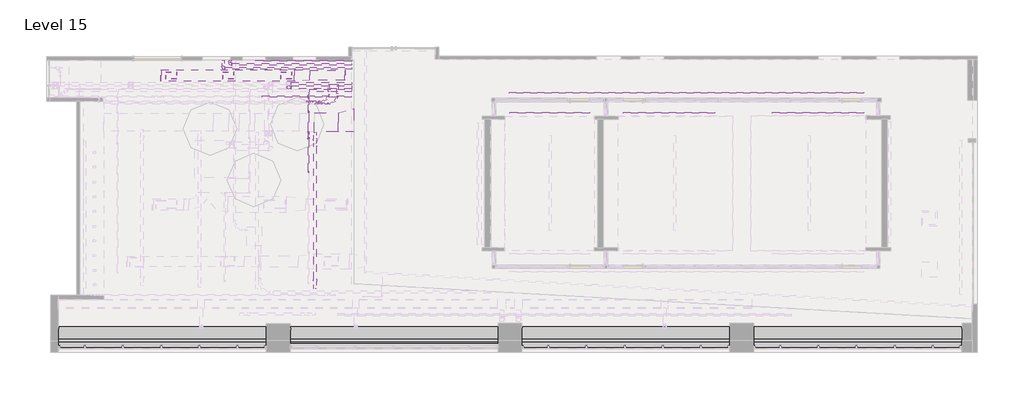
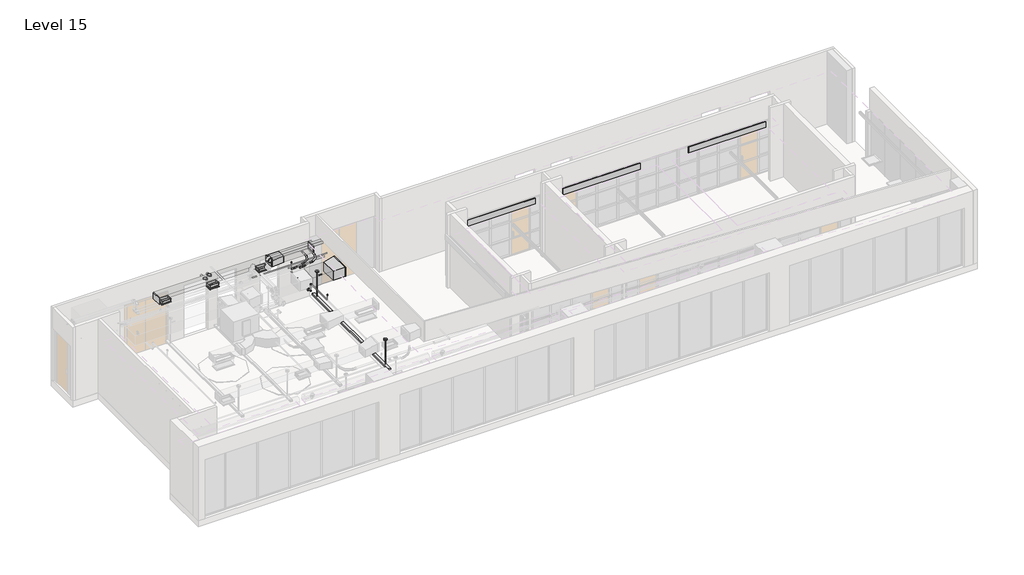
# One storey, part 11 of 11: 18 pipe segments, 9 pipe fittings, 7 air terminals, 7 duct fittings, 6 duct segments, 5 cable carrier segments, 4 cable carrier fittings, 4 proxies, 5 other elements.
"""IFC4 building model written with IfcOpenShell, lengths in millimetres."""

from ifc_helpers import new_model, si_unit, point, frame, frame_2d, origin, place, context, project, spatial, polyline, circle_curve, trimmed, segment, composite_curve, outline, extrude, transform, mapped, element, save
from components import supply_diffuser_sidewall_16x10_d44e3353, air_terminal_c1c45ee0, supply_diffuser_with_plenum_linear_slot_hosted_12_d1458841, air_terminal_2f0d0d18, radiator_radiator_24426470, radiator1_radiator_8c1c74d1, radiator2_radiator_12a4a68e, radiator3_radiator_d09cfcde, conduit_elbow_steel_standard_9fb14d21, conduit_elbow_steel_standard_2012344a, rectangular_endcap_standard_d1b4211e, rectangular_endcap_standard_0bbf1fc8, rectangular_length_eccentric_transition_dtl_standard_1da9befa, rectangular_length_eccentric_transition_dtl_standard_12de035d, rectangular_shoe_tap_standard_00681e93, upright_standard_a22043d6, light_fixture_7ab595b3, power_recessed_all2_duplex_standard_2_0b10a376, standard_237da642, threaded_elbow_standard_6d9bc947, threaded_elbow_standard_4a24fb9d

model = new_model("IFC4")

# Units and contexts
model_context = context("Model", 3, world=origin())
ifc_project = project(units=[si_unit("LENGTHUNIT", "METRE", prefix="MILLI")], contexts=[model_context])

# Site, building, storey
site = spatial("IfcSite", under=ifc_project)
building = spatial("IfcBuilding", under=site)
storey = spatial("IfcBuildingStorey", under=building, Name="Level 15", Elevation=51206.4)

# Air terminals
placement = place(None, origin())
supply_diffuser_sidewall_16x10_shape = supply_diffuser_sidewall_16x10_d44e3353(model_context)
element("IfcAirTerminal", 1, ObjectType="Supply Diffuser - Sidewall : 16x10", at=placement, inside=storey, context=model_context, shape_type="MappedRepresentation", body=[
    mapped(supply_diffuser_sidewall_16x10_shape, transform((-13337.3591431, 4021.1935985, 53822.6), x_axis=(1.0000000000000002, 0.0, 0.0), y_axis=(0.0, 0.0, 1.0000000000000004), z_axis=(0.0, -1.0000000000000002, 0.0))),
])
element("IfcAirTerminal", 2, ObjectType="Supply Diffuser - Sidewall : 16x10", at=placement, inside=storey, context=model_context, shape_type="MappedRepresentation", body=[
    mapped(supply_diffuser_sidewall_16x10_shape, transform((-11064.0591431, 4021.1935985, 53797.2), x_axis=(1.0000000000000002, 0.0, 0.0), y_axis=(0.0, 0.0, 1.0000000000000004), z_axis=(0.0, -1.0000000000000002, 0.0))),
])
element("IfcAirTerminal", 3, ObjectType="Supply Diffuser - Sidewall : 16x10", at=placement, inside=storey, context=model_context, shape_type="MappedRepresentation", body=[
    mapped(supply_diffuser_sidewall_16x10_shape, transform((-8739.9591431, 4021.1935985, 53822.6), x_axis=(1.0000000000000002, 0.0, 0.0), y_axis=(0.0, 0.0, 1.0000000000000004), z_axis=(0.0, -1.0000000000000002, 0.0))),
])
air_terminal_shape = air_terminal_c1c45ee0(model_context)
element("IfcAirTerminal", 4, ObjectType="Supply Diffuser with Plenum - Linear Slot - Hosted : 10'-6\"", at=placement, inside=storey, context=model_context, shape_type="MappedRepresentation", body=[
    mapped(air_terminal_shape, transform((1779.6369657, 2534.0685985, 53797.2), x_axis=(1.0, 0.0, 0.0), y_axis=(0.0, -1.0, 0.0), z_axis=(0.0, 0.0, -1.0))),
])
supply_diffuser_with_plenum_linear_slot_hosted_12_shape = supply_diffuser_with_plenum_linear_slot_hosted_12_d1458841(model_context)
element("IfcAirTerminal", 5, ObjectType="Supply Diffuser with Plenum - Linear Slot - Hosted : 12'", at=placement, inside=storey, context=model_context, shape_type="MappedRepresentation", body=[
    mapped(supply_diffuser_with_plenum_linear_slot_hosted_12_shape, transform((6536.939854, 2528.7435985, 53797.2), x_axis=(1.0, 0.0, 0.0), y_axis=(0.0, -1.0, 0.0), z_axis=(0.0, 0.0, -1.0))),
])
element("IfcAirTerminal", 6, ObjectType="Supply Diffuser with Plenum - Linear Slot - Hosted : 12'", at=placement, inside=storey, context=model_context, shape_type="MappedRepresentation", body=[
    mapped(supply_diffuser_with_plenum_linear_slot_hosted_12_shape, transform((12493.2375775, 2528.7435985, 53797.2), x_axis=(1.0, 0.0, 0.0), y_axis=(0.0, -1.0, 0.0), z_axis=(0.0, 0.0, -1.0))),
])
air_terminal_2_shape = air_terminal_2f0d0d18(model_context)
element("IfcAirTerminal", 7, ObjectType="Supply Diffuser with Plenum - Linear Slot - Hosted : 46'-6\"", at=placement, inside=storey, context=model_context, shape_type="MappedRepresentation", body=[
    mapped(air_terminal_2_shape, transform((7240.1690782, 3328.1935985, 53797.2), x_axis=(-1.0, 0.0, 0.0), y_axis=(0.0, 1.0, 0.0), z_axis=(0.0, 0.0, -1.0))),
])

# Proxies
radiator_radiator_shape = radiator_radiator_24426470(model_context)
element("IfcBuildingElementProxy", 8, Name="Radiator : Radiator", ObjectType="Radiator : Radiator", at=placement, inside=storey, context=model_context, shape_type="MappedRepresentation", body=[
    mapped(radiator_radiator_shape, transform((0.0, 0.0, 0.0), x_axis=(1.0, 0.0, 0.0), y_axis=(0.0, 1.0, 0.0), z_axis=(0.0, 0.0, 1.0))),
])
radiator1_radiator_shape = radiator1_radiator_8c1c74d1(model_context)
element("IfcBuildingElementProxy", 9, Name="Radiator1 : Radiator", ObjectType="Radiator1 : Radiator", at=placement, inside=storey, context=model_context, shape_type="MappedRepresentation", body=[
    mapped(radiator1_radiator_shape, transform((0.0, 0.0, 0.0), x_axis=(1.0, 0.0, 0.0), y_axis=(0.0, 1.0, 0.0), z_axis=(0.0, 0.0, 1.0))),
])
radiator2_radiator_shape = radiator2_radiator_12a4a68e(model_context)
element("IfcBuildingElementProxy", 10, Name="Radiator2 : Radiator", ObjectType="Radiator2 : Radiator", at=placement, inside=storey, context=model_context, shape_type="MappedRepresentation", body=[
    mapped(radiator2_radiator_shape, transform((0.0, 0.0, 0.0), x_axis=(1.0, 0.0, 0.0), y_axis=(0.0, 1.0, 0.0), z_axis=(0.0, 0.0, 1.0))),
])
radiator3_radiator_shape = radiator3_radiator_d09cfcde(model_context)
element("IfcBuildingElementProxy", 11, Name="Radiator3 : Radiator", ObjectType="Radiator3 : Radiator", at=placement, inside=storey, context=model_context, shape_type="MappedRepresentation", body=[
    mapped(radiator3_radiator_shape, transform((0.0, 0.0, 0.0), x_axis=(1.0, 0.0, 0.0), y_axis=(0.0, 1.0, 0.0), z_axis=(0.0, 0.0, 1.0))),
])

# Cable carrier fittings
conduit_elbow_steel_standard_shape = conduit_elbow_steel_standard_9fb14d21(model_context)
element("IfcCableCarrierFitting", 12, ObjectType="Conduit Elbow - Steel : Standard", at=placement, inside=storey, context=model_context, shape_type="MappedRepresentation", body=[
    mapped(conduit_elbow_steel_standard_shape, transform((-7045.1415084, 2977.9204938, 54356.0), x_axis=(0.9782298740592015, 0.0, 0.20752424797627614), y_axis=(0.0, 1.0, 0.0), z_axis=(-0.20752424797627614, 0.0, 0.9782298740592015))),
])
element("IfcCableCarrierFitting", 13, ObjectType="Conduit Elbow - Steel : Standard", at=placement, inside=storey, context=model_context, shape_type="MappedRepresentation", body=[
    mapped(conduit_elbow_steel_standard_shape, transform((-6702.2415084, 2901.7204938, 54356.0), x_axis=(0.9782298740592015, 0.0, 0.20752424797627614), y_axis=(0.0, 1.0, 0.0), z_axis=(-0.20752424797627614, 0.0, 0.9782298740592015))),
])
conduit_elbow_steel_standard_2_shape = conduit_elbow_steel_standard_2012344a(model_context)
element("IfcCableCarrierFitting", 14, ObjectType="Conduit Elbow - Steel : Standard", at=placement, inside=storey, context=model_context, shape_type="MappedRepresentation", body=[
    mapped(conduit_elbow_steel_standard_2_shape, transform((-7793.4588449, 2977.9204938, 54197.25), x_axis=(1.0, 0.0, 0.0), y_axis=(0.0, 0.0, 1.0), z_axis=(0.0, -1.0, 0.0))),
])
element("IfcCableCarrierFitting", 15, ObjectType="Conduit Elbow - Steel : Standard", at=placement, inside=storey, context=model_context, shape_type="MappedRepresentation", body=[
    mapped(conduit_elbow_steel_standard_2_shape, transform((-7450.5588449, 2901.7204938, 54197.25), x_axis=(1.0, 0.0, 0.0), y_axis=(0.0, 0.0, 1.0), z_axis=(0.0, -1.0, 0.0))),
])

# Cable carrier segments
element("IfcCableCarrierSegment", 16, ObjectType="Conduit", at=placement, inside=storey, context=model_context, shape_type="SweptSolid", body=[
    extrude(outline(composite_curve([segment(trimmed(circle_curve(frame_2d((4605.5481496, 53949.6)), 27.9019), [point((4577.6462496, 53949.6))], [point((4605.5481496, 53977.5019))], False, "CARTESIAN"), True, "CONTINUOUS"), segment(trimmed(circle_curve(frame_2d((4605.5481496, 53949.6)), 27.9019), [point((4605.5481496, 53977.5019))], [point((4633.4500496, 53949.6))], False, "CARTESIAN"), True, "CONTINUOUS"), segment(trimmed(circle_curve(frame_2d((4605.5481496, 53949.6)), 27.9019), [point((4633.4500496, 53949.6))], [point((4605.5481496, 53921.6981))], False, "CARTESIAN"), True, "CONTINUOUS"), segment(trimmed(circle_curve(frame_2d((4605.5481496, 53949.6)), 27.9019), [point((4605.5481496, 53921.6981))], [point((4577.6462496, 53949.6))], False, "CARTESIAN"), True, "CONTINUOUS")], self_intersect=False)), frame((-9983.3415084, 0.0, 0.0), z_axis=(1.0, 0.0, 0.0), x_axis=(0.0, 1.0, 0.0)), (0.0, 0.0, 1.0), 3860.4662583),
])
element("IfcCableCarrierSegment", 17, ObjectType="Conduit", at=placement, inside=storey, context=model_context, shape_type="SweptSolid", body=[
    extrude(outline(composite_curve([segment(trimmed(circle_curve(frame_2d((0.0, 27.9019)), 27.9019), [point((0.0, 0.0))], [point((-27.9019, 27.9019))], False, "CARTESIAN"), True, "CONTINUOUS"), segment(trimmed(circle_curve(frame_2d((0.0, 27.9019)), 27.9019), [point((-27.9019, 27.9019))], [point((0.0, 55.8038))], False, "CARTESIAN"), True, "CONTINUOUS"), segment(trimmed(circle_curve(frame_2d((0.0, 27.9019)), 27.9019), [point((0.0, 55.8038))], [point((27.9019, 27.9019))], False, "CARTESIAN"), True, "CONTINUOUS"), segment(trimmed(circle_curve(frame_2d((0.0, 27.9019)), 27.9019), [point((27.9019, 27.9019))], [point((0.0, 0.0))], False, "CARTESIAN"), True, "CONTINUOUS")], self_intersect=False)), frame((-7664.0953184, 2950.0185938, 54224.6935174), z_axis=(0.9782298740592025, 0.0, 0.20752424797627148), x_axis=(0.20752424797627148, 0.0, -0.9782298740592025)), (0.0, 0.0, 1.0), 239.0283867),
])
element("IfcCableCarrierSegment", 18, ObjectType="Conduit", at=placement, inside=storey, context=model_context, shape_type="SweptSolid", body=[
    extrude(outline(composite_curve([segment(trimmed(circle_curve(frame_2d((0.0, 27.9019)), 27.9019), [point((0.0, 55.8038))], [point((27.9019, 27.9019))], False, "CARTESIAN"), True, "CONTINUOUS"), segment(trimmed(circle_curve(frame_2d((0.0, 27.9019)), 27.9019), [point((27.9019, 27.9019))], [point((0.0, 0.0))], False, "CARTESIAN"), True, "CONTINUOUS"), segment(trimmed(circle_curve(frame_2d((0.0, 27.9019)), 27.9019), [point((0.0, 0.0))], [point((-27.9019, 27.9019))], False, "CARTESIAN"), True, "CONTINUOUS"), segment(trimmed(circle_curve(frame_2d((0.0, 27.9019)), 27.9019), [point((-27.9019, 27.9019))], [point((0.0, 55.8038))], False, "CARTESIAN"), True, "CONTINUOUS")], self_intersect=False)), frame((-7073.0434084, 3371.6204938, 54356.0), z_axis=(-1.0575670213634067e-12, 1.0, 0.0), x_axis=(0.0, 0.0, 1.0)), (0.0, 0.0, 1.0), 304.8),
])
element("IfcCableCarrierSegment", 19, ObjectType="Conduit", at=placement, inside=storey, context=model_context, shape_type="SweptSolid", body=[
    extrude(outline(composite_curve([segment(trimmed(circle_curve(frame_2d((0.0, 27.9019)), 27.9019), [point((0.0, 0.0))], [point((-27.9019, 27.9019))], False, "CARTESIAN"), True, "CONTINUOUS"), segment(trimmed(circle_curve(frame_2d((0.0, 27.9019)), 27.9019), [point((-27.9019, 27.9019))], [point((0.0, 55.8038))], False, "CARTESIAN"), True, "CONTINUOUS"), segment(trimmed(circle_curve(frame_2d((0.0, 27.9019)), 27.9019), [point((0.0, 55.8038))], [point((27.9019, 27.9019))], False, "CARTESIAN"), True, "CONTINUOUS"), segment(trimmed(circle_curve(frame_2d((0.0, 27.9019)), 27.9019), [point((27.9019, 27.9019))], [point((0.0, 0.0))], False, "CARTESIAN"), True, "CONTINUOUS")], self_intersect=False)), frame((-7321.1953184, 2873.8185938, 54224.6935174), z_axis=(0.9782298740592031, 0.0, 0.2075242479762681), x_axis=(0.2075242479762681, 0.0, -0.9782298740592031)), (0.0, 0.0, 1.0), 239.0283867),
])
element("IfcCableCarrierSegment", 20, ObjectType="Conduit", at=placement, inside=storey, context=model_context, shape_type="SweptSolid", body=[
    extrude(outline(composite_curve([segment(trimmed(circle_curve(frame_2d((0.0, 27.9019)), 27.9019), [point((0.0, 55.8038))], [point((27.9019, 27.9019))], False, "CARTESIAN"), True, "CONTINUOUS"), segment(trimmed(circle_curve(frame_2d((0.0, 27.9019)), 27.9019), [point((27.9019, 27.9019))], [point((0.0, 0.0))], False, "CARTESIAN"), True, "CONTINUOUS"), segment(trimmed(circle_curve(frame_2d((0.0, 27.9019)), 27.9019), [point((0.0, 0.0))], [point((-27.9019, 27.9019))], False, "CARTESIAN"), True, "CONTINUOUS"), segment(trimmed(circle_curve(frame_2d((0.0, 27.9019)), 27.9019), [point((-27.9019, 27.9019))], [point((0.0, 55.8038))], False, "CARTESIAN"), True, "CONTINUOUS")], self_intersect=False)), frame((-6730.1434084, 3295.4204938, 54356.0), z_axis=(-1.0187572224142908e-12, 1.0, 0.0), x_axis=(0.0, 0.0, 1.0)), (0.0, 0.0, 1.0), 381.0),
])

# Duct fittings
rectangular_endcap_standard_shape = rectangular_endcap_standard_d1b4211e(model_context)
element("IfcDuctFitting", 21, ObjectType="Rectangular Endcap : Standard", at=placement, inside=storey, context=model_context, shape_type="MappedRepresentation", body=[
    mapped(rectangular_endcap_standard_shape, transform((-13724.8962202, 4021.1935985, 54127.4), x_axis=(-1.0, 0.0, 0.0), y_axis=(0.0, -1.0, 0.0), z_axis=(0.0, 0.0, 1.0))),
])
rectangular_endcap_standard_2_shape = rectangular_endcap_standard_0bbf1fc8(model_context)
element("IfcDuctFitting", 22, ObjectType="Rectangular Endcap : Standard", at=placement, inside=storey, context=model_context, shape_type="MappedRepresentation", body=[
    mapped(rectangular_endcap_standard_2_shape, transform((-6409.6962202, 4021.1935985, 54127.4), x_axis=(1.0, 0.0, 0.0), y_axis=(0.0, 1.0, 0.0), z_axis=(0.0, 0.0, 1.0))),
])
rectangular_length_eccentric_transition_dtl_standard_shape = rectangular_length_eccentric_transition_dtl_standard_1da9befa(model_context)
element("IfcDuctFitting", 23, ObjectType="Rectangular Length Eccentric Transition - DTL : Standard", at=placement, inside=storey, context=model_context, shape_type="MappedRepresentation", body=[
    mapped(rectangular_length_eccentric_transition_dtl_standard_shape, transform((-8416.5502202, 4021.1935985, 54127.4), x_axis=(1.0, 0.0, 0.0), y_axis=(0.0, 1.0, 0.0), z_axis=(0.0, 0.0, 1.0))),
])
rectangular_length_eccentric_transition_dtl_standard_2_shape = rectangular_length_eccentric_transition_dtl_standard_12de035d(model_context)
element("IfcDuctFitting", 24, ObjectType="Rectangular Length Eccentric Transition - DTL : Standard", at=placement, inside=storey, context=model_context, shape_type="MappedRepresentation", body=[
    mapped(rectangular_length_eccentric_transition_dtl_standard_2_shape, transform((-6046.67525, 2222.974678, 54140.1), x_axis=(-1.0, 0.0, 0.0), y_axis=(0.0, -1.0, 0.0), z_axis=(0.0, 0.0, 1.0))),
])
rectangular_shoe_tap_standard_shape = rectangular_shoe_tap_standard_00681e93(model_context)
element("IfcDuctFitting", 25, ObjectType="Rectangular Shoe Tap : Standard", at=placement, inside=storey, context=model_context, shape_type="MappedRepresentation", body=[
    mapped(rectangular_shoe_tap_standard_shape, transform((-13337.3591431, 4021.1935985, 53975.0), x_axis=(0.0, 0.0, -1.0), y_axis=(-1.0, 0.0, 0.0), z_axis=(0.0, 1.0, 0.0))),
])
element("IfcDuctFitting", 26, ObjectType="Rectangular Shoe Tap : Standard", at=placement, inside=storey, context=model_context, shape_type="MappedRepresentation", body=[
    mapped(rectangular_shoe_tap_standard_shape, transform((-11064.0591431, 4021.1935985, 53975.0), x_axis=(0.0, 0.0, -1.0), y_axis=(-1.0, 0.0, 0.0), z_axis=(0.0, 1.0, 0.0))),
])
element("IfcDuctFitting", 27, ObjectType="Rectangular Shoe Tap : Standard", at=placement, inside=storey, context=model_context, shape_type="MappedRepresentation", body=[
    mapped(rectangular_shoe_tap_standard_shape, transform((-8739.9591431, 4021.1935985, 53975.0), x_axis=(0.0, 0.0, -1.0), y_axis=(-1.0, 0.0, 0.0), z_axis=(0.0, 1.0, 0.0))),
])

# Duct segments
element("IfcDuctSegment", 28, ObjectType="Square Throat Elbows / S&D", at=placement, inside=storey, context=model_context, shape_type="SweptSolid", body=[
    extrude(outline(polyline([(-7806.9502202, 3817.9935985), (-7806.9502202, 4224.3935985), (-6409.6962202, 4224.3935985), (-6409.6962202, 3817.9935985), (-7806.9502202, 3817.9935985)])), frame((0.0, 0.0, 53975.0), z_axis=(0.0, 0.0, 1.0), x_axis=(1.0, 0.0, 0.0)), (0.0, 0.0, 1.0), 304.8),
])
element("IfcDuctSegment", 29, ObjectType="Square Throat Elbows / S&D", at=placement, inside=storey, context=model_context, shape_type="SweptSolid", body=[
    extrude(outline(polyline([(-13724.8962202, 3792.5935985), (-13724.8962202, 4249.7935985), (-8416.5502202, 4249.7935985), (-8416.5502202, 3792.5935985), (-13724.8962202, 3792.5935985)])), frame((0.0, 0.0, 53975.0), z_axis=(0.0, 0.0, 1.0), x_axis=(1.0, 0.0, 0.0)), (0.0, 0.0, 1.0), 304.8),
])
element("IfcDuctSegment", 30, ObjectType="Square Throat Elbows / S&D", at=placement, inside=storey, context=model_context, shape_type="SweptSolid", body=[
    extrude(outline(polyline([(-13540.5591431, 3894.1935985), (-13540.5591431, 4148.1935985), (-13134.1591431, 4148.1935985), (-13134.1591431, 3894.1935985), (-13540.5591431, 3894.1935985)])), frame((0.0, 0.0, 53850.38125), z_axis=(0.0, 0.0, 1.0), x_axis=(1.0, 0.0, 0.0)), (0.0, 0.0, 1.0), 23.01875),
])
element("IfcDuctSegment", 31, ObjectType="Square Throat Elbows / S&D", at=placement, inside=storey, context=model_context, shape_type="SweptSolid", body=[
    extrude(outline(polyline([(-11267.2591431, 3894.1935985), (-11267.2591431, 4148.1935985), (-10860.8591431, 4148.1935985), (-10860.8591431, 3894.1935985), (-11267.2591431, 3894.1935985)])), frame((0.0, 0.0, 53824.98125), z_axis=(0.0, 0.0, 1.0), x_axis=(1.0, 0.0, 0.0)), (0.0, 0.0, 1.0), 48.41875),
])
element("IfcDuctSegment", 32, ObjectType="Square Throat Elbows / S&D", at=placement, inside=storey, context=model_context, shape_type="SweptSolid", body=[
    extrude(outline(polyline([(-8943.1591431, 3894.1935985), (-8943.1591431, 4148.1935985), (-8536.7591431, 4148.1935985), (-8536.7591431, 3894.1935985), (-8943.1591431, 3894.1935985)])), frame((0.0, 0.0, 53850.38125), z_axis=(0.0, 0.0, 1.0), x_axis=(1.0, 0.0, 0.0)), (0.0, 0.0, 1.0), 23.01875),
])
element("IfcDuctSegment", 33, ObjectType="Square Throat Elbows / S&D", at=placement, inside=storey, context=model_context, shape_type="SweptSolid", body=[
    extrude(outline(polyline([(-7615.0642299, 1765.774678), (-7615.0642299, 2527.774678), (-6656.27525, 2527.774678), (-6656.27525, 1765.774678), (-7615.0642299, 1765.774678)])), frame((0.0, 0.0, 53911.5), z_axis=(0.0, 0.0, 1.0), x_axis=(1.0, 0.0, 0.0)), (0.0, 0.0, 1.0), 457.2),
])

# Fire suppression terminals
upright_standard_shape = upright_standard_a22043d6(model_context)
element("IfcFireSuppressionTerminal", 34, ObjectType="Upright : Standard", at=placement, inside=storey, context=model_context, shape_type="MappedRepresentation", body=[
    mapped(upright_standard_shape, transform((-7851.8681062, 158.0143012, 54533.8), x_axis=(1.0, 0.0, 0.0), y_axis=(0.0, 1.0, 0.0), z_axis=(0.0, 0.0, 1.0))),
])
element("IfcFireSuppressionTerminal", 35, ObjectType="Upright : Standard", at=placement, inside=storey, context=model_context, shape_type="MappedRepresentation", body=[
    mapped(upright_standard_shape, transform((-7851.8681062, 3123.4643012, 54368.7), x_axis=(1.0, 0.0, 0.0), y_axis=(0.0, 1.0, 0.0), z_axis=(0.0, 0.0, 1.0))),
])

# Light fixture
light_fixture_shape = light_fixture_7ab595b3(model_context)
element("IfcLightFixture", 36, ObjectType="Linear : 20' 8\"", at=placement, inside=storey, context=model_context, shape_type="MappedRepresentation", body=[
    mapped(light_fixture_shape, transform((-7588.4415084, 1194.3935985, 49703.9365365), x_axis=(0.0, 1.0, 0.0), y_axis=(-1.0, 0.0, 0.0), z_axis=(0.0, 0.0, 1.0))),
])

# Outlets
power_recessed_all2_duplex_standard_2_shape = power_recessed_all2_duplex_standard_2_0b10a376(model_context)
element("IfcOutlet", 37, ObjectType="Power-Recessed-All2 : Duplex-Standard 2", at=placement, inside=storey, context=model_context, shape_type="MappedRepresentation", body=[
    mapped(power_recessed_all2_duplex_standard_2_shape, transform((13931.8936925, 4668.7435985, 51638.2), x_axis=(1.0, 0.0, 0.0), y_axis=(0.0, 0.0, 1.0), z_axis=(0.0, -1.0, 0.0))),
])
element("IfcOutlet", 38, ObjectType="Power-Recessed-All2 : Duplex-Standard 2", at=placement, inside=storey, context=model_context, shape_type="MappedRepresentation", body=[
    mapped(power_recessed_all2_duplex_standard_2_shape, transform((5017.7584916, 4668.7435985, 51562.0), x_axis=(1.0, 0.0, 0.0), y_axis=(0.0, 0.0, 1.0), z_axis=(0.0, -1.0, 0.0))),
])

# Pipe fittings
standard_shape = standard_237da642(model_context)
element("IfcPipeFitting", 39, ObjectType="Victaulic Grooved Elbow : Standard", at=placement, inside=storey, context=model_context, shape_type="MappedRepresentation", body=[
    mapped(standard_shape, transform((-7851.8681062, 1516.1797412, 54317.9), x_axis=(0.0, 1.0, 0.0), y_axis=(0.0, 0.0, -1.0), z_axis=(-1.0, 0.0, 0.0))),
])
element("IfcPipeFitting", 40, ObjectType="Victaulic Grooved Elbow : Standard", at=placement, inside=storey, context=model_context, shape_type="MappedRepresentation", body=[
    mapped(standard_shape, transform((-7851.8681062, 2563.2935985, 53848.0), x_axis=(0.0, 1.0, 0.0), y_axis=(0.0, 0.0, 1.0), z_axis=(1.0, 0.0, 0.0))),
])
element("IfcPipeFitting", 41, ObjectType="Victaulic Grooved Elbow : Standard", at=placement, inside=storey, context=model_context, shape_type="MappedRepresentation", body=[
    mapped(standard_shape, transform((-7851.8681062, 2563.2935985, 53949.6), x_axis=(0.0, 0.0, 1.0), y_axis=(0.0, 1.0, 0.0), z_axis=(-1.0, 0.0, 0.0))),
])
element("IfcPipeFitting", 42, ObjectType="Victaulic Grooved Elbow : Standard", at=placement, inside=storey, context=model_context, shape_type="MappedRepresentation", body=[
    mapped(standard_shape, transform((-7851.8681062, 1516.1797412, 53949.6), x_axis=(0.0, 0.0, -1.0), y_axis=(0.0, 1.0, 0.0), z_axis=(1.0, 0.0, 0.0))),
])
element("IfcPipeFitting", 43, ObjectType="Victaulic Grooved Elbow : Standard", at=placement, inside=storey, context=model_context, shape_type="MappedRepresentation", body=[
    mapped(standard_shape, transform((-7851.8681062, 1728.9047412, 53848.0), x_axis=(0.0, -1.0, 0.0), y_axis=(0.0, 0.0, 1.0), z_axis=(-1.0, 0.0, 0.0))),
])
element("IfcPipeFitting", 44, ObjectType="Victaulic Grooved Elbow : Standard", at=placement, inside=storey, context=model_context, shape_type="MappedRepresentation", body=[
    mapped(standard_shape, transform((-7851.8681062, 1728.9047412, 53949.6), x_axis=(0.0, 1.0, 0.0), y_axis=(0.0, 0.0, -1.0), z_axis=(-1.0, 0.0, 0.0))),
])
threaded_elbow_standard_shape = threaded_elbow_standard_6d9bc947(model_context)
element("IfcPipeFitting", 45, ObjectType="Threaded Elbow : Standard", at=placement, inside=storey, context=model_context, shape_type="MappedRepresentation", body=[
    mapped(threaded_elbow_standard_shape, transform((-8648.6307372, 3544.746744, 54559.2), x_axis=(0.0, 0.0, 1.0), y_axis=(1.0, 0.0, 0.0), z_axis=(0.0, 1.0, 0.0))),
])
threaded_elbow_standard_2_shape = threaded_elbow_standard_4a24fb9d(model_context)
element("IfcPipeFitting", 46, ObjectType="Threaded Elbow : Standard", at=placement, inside=storey, context=model_context, shape_type="MappedRepresentation", body=[
    mapped(threaded_elbow_standard_2_shape, transform((-10987.2415084, 4462.7935985, 54051.2), x_axis=(0.0, -1.0, 0.0), y_axis=(1.0, 0.0, 0.0), z_axis=(0.0, 0.0, 1.0))),
])
element("IfcPipeFitting", 47, ObjectType="Threaded Elbow : Standard", at=placement, inside=storey, context=model_context, shape_type="MappedRepresentation", body=[
    mapped(threaded_elbow_standard_2_shape, transform((-11260.9590062, 4310.3935985, 54051.2), x_axis=(0.0, -1.0, 0.0), y_axis=(1.0, 0.0, 0.0), z_axis=(0.0, 0.0, 1.0))),
])

# Pipe segments
element("IfcPipeSegment", 48, ObjectType="Fire Prot Sched 10 Main", at=placement, inside=storey, context=model_context, shape_type="SweptSolid", body=[
    extrude(outline(composite_curve([segment(trimmed(circle_curve(frame_2d((3418.1189131, 53949.6)), 44.45), [point((3373.6689131, 53949.6))], [point((3418.1189131, 53994.05))], False, "CARTESIAN"), True, "CONTINUOUS"), segment(trimmed(circle_curve(frame_2d((3418.1189131, 53949.6)), 44.45), [point((3418.1189131, 53994.05))], [point((3462.5689131, 53949.6))], False, "CARTESIAN"), True, "CONTINUOUS"), segment(trimmed(circle_curve(frame_2d((3418.1189131, 53949.6)), 44.45), [point((3462.5689131, 53949.6))], [point((3418.1189131, 53905.15))], False, "CARTESIAN"), True, "CONTINUOUS"), segment(trimmed(circle_curve(frame_2d((3418.1189131, 53949.6)), 44.45), [point((3418.1189131, 53905.15))], [point((3373.6689131, 53949.6))], False, "CARTESIAN"), True, "CONTINUOUS")], self_intersect=False)), frame((-7801.0681062, 0.0, 0.0), z_axis=(1.0, 0.0, 0.0), x_axis=(0.0, 1.0, 0.0)), (0.0, 0.0, 1.0), 1678.1928562),
])
element("IfcPipeSegment", 49, ObjectType="Fire Prot Sched 10 Main", at=placement, inside=storey, context=model_context, shape_type="SweptSolid", body=[
    extrude(outline(composite_curve([segment(trimmed(circle_curve(frame_2d((-7851.8681062, 1516.1797412)), 16.7005), [point((-7835.1676062, 1516.1797412))], [point((-7851.8681062, 1499.4792412))], False, "CARTESIAN"), True, "CONTINUOUS"), segment(trimmed(circle_curve(frame_2d((-7851.8681062, 1516.1797412)), 16.7005), [point((-7851.8681062, 1499.4792412))], [point((-7868.5686062, 1516.1797412))], False, "CARTESIAN"), True, "CONTINUOUS"), segment(trimmed(circle_curve(frame_2d((-7851.8681062, 1516.1797412)), 16.7005), [point((-7868.5686062, 1516.1797412))], [point((-7851.8681062, 1532.8802412))], False, "CARTESIAN"), True, "CONTINUOUS"), segment(trimmed(circle_curve(frame_2d((-7851.8681062, 1516.1797412)), 16.7005), [point((-7851.8681062, 1532.8802412))], [point((-7835.1676062, 1516.1797412))], False, "CARTESIAN"), True, "CONTINUOUS")], self_intersect=False)), frame((0.0, 0.0, 53986.5450937), z_axis=(0.0, 0.0, 1.0), x_axis=(1.0, 0.0, 0.0)), (0.0, 0.0, 1.0), 294.4098125),
])
element("IfcPipeSegment", 50, ObjectType="Fire Prot Sched 10 Main", at=placement, inside=storey, context=model_context, shape_type="SweptSolid", body=[
    extrude(outline(composite_curve([segment(trimmed(circle_curve(frame_2d((53848.0, -7851.8681062)), 16.7005), [point((53848.0, -7835.1676062))], [point((53864.7005, -7851.8681062))], False, "CARTESIAN"), True, "CONTINUOUS"), segment(trimmed(circle_curve(frame_2d((53848.0, -7851.8681062)), 16.7005), [point((53864.7005, -7851.8681062))], [point((53848.0, -7868.5686062))], False, "CARTESIAN"), True, "CONTINUOUS"), segment(trimmed(circle_curve(frame_2d((53848.0, -7851.8681062)), 16.7005), [point((53848.0, -7868.5686062))], [point((53831.2995, -7851.8681062))], False, "CARTESIAN"), True, "CONTINUOUS"), segment(trimmed(circle_curve(frame_2d((53848.0, -7851.8681062)), 16.7005), [point((53831.2995, -7851.8681062))], [point((53848.0, -7835.1676062))], False, "CARTESIAN"), True, "CONTINUOUS")], self_intersect=False)), frame((0.0, 1765.8498349, 0.0), z_axis=(0.0, 1.0, 0.0), x_axis=(0.0, 0.0, 1.0)), (0.0, 0.0, 1.0), 760.4986698),
])
element("IfcPipeSegment", 51, ObjectType="Fire Prot Sched 10 Main", at=placement, inside=storey, context=model_context, shape_type="SweptSolid", body=[
    extrude(outline(composite_curve([segment(trimmed(circle_curve(frame_2d((-7851.8681062, 2563.2935985)), 16.7005), [point((-7868.5686062, 2563.2935985))], [point((-7851.8681062, 2579.9940985))], False, "CARTESIAN"), True, "CONTINUOUS"), segment(trimmed(circle_curve(frame_2d((-7851.8681062, 2563.2935985)), 16.7005), [point((-7851.8681062, 2579.9940985))], [point((-7835.1676062, 2563.2935985))], False, "CARTESIAN"), True, "CONTINUOUS"), segment(trimmed(circle_curve(frame_2d((-7851.8681062, 2563.2935985)), 16.7005), [point((-7835.1676062, 2563.2935985))], [point((-7851.8681062, 2546.5930985))], False, "CARTESIAN"), True, "CONTINUOUS"), segment(trimmed(circle_curve(frame_2d((-7851.8681062, 2563.2935985)), 16.7005), [point((-7851.8681062, 2546.5930985))], [point((-7868.5686062, 2563.2935985))], False, "CARTESIAN"), True, "CONTINUOUS")], self_intersect=False)), frame((0.0, 0.0, 53884.9450937), z_axis=(0.0, 0.0, 1.0), x_axis=(1.0, 0.0, 0.0)), (0.0, 0.0, 1.0), 27.7098125),
])
element("IfcPipeSegment", 52, ObjectType="Fire Prot Sched 10 Main", at=placement, inside=storey, context=model_context, shape_type="SweptSolid", body=[
    extrude(outline(composite_curve([segment(trimmed(circle_curve(frame_2d((53949.6, -7851.8681062)), 16.7005), [point((53949.6, -7868.5686062))], [point((53932.8995, -7851.8681062))], False, "CARTESIAN"), True, "CONTINUOUS"), segment(trimmed(circle_curve(frame_2d((53949.6, -7851.8681062)), 16.7005), [point((53932.8995, -7851.8681062))], [point((53949.6, -7835.1676062))], False, "CARTESIAN"), True, "CONTINUOUS"), segment(trimmed(circle_curve(frame_2d((53949.6, -7851.8681062)), 16.7005), [point((53949.6, -7835.1676062))], [point((53966.3005, -7851.8681062))], False, "CARTESIAN"), True, "CONTINUOUS"), segment(trimmed(circle_curve(frame_2d((53949.6, -7851.8681062)), 16.7005), [point((53966.3005, -7851.8681062))], [point((53949.6, -7868.5686062))], False, "CARTESIAN"), True, "CONTINUOUS")], self_intersect=False)), frame((0.0, 2600.2386922, 0.0), z_axis=(0.0, 1.0, 0.0), x_axis=(0.0, 0.0, 1.0)), (0.0, 0.0, 1.0), 491.225609),
])
element("IfcPipeSegment", 53, ObjectType="Fire Prot Sched 10 Main", at=placement, inside=storey, context=model_context, shape_type="SweptSolid", body=[
    extrude(outline(composite_curve([segment(trimmed(circle_curve(frame_2d((-7851.8681062, 158.0143012)), 10.668), [point((-7841.2001062, 158.0143012))], [point((-7851.8681062, 147.3463012))], False, "CARTESIAN"), True, "CONTINUOUS"), segment(trimmed(circle_curve(frame_2d((-7851.8681062, 158.0143012)), 10.668), [point((-7851.8681062, 147.3463012))], [point((-7862.5361062, 158.0143012))], False, "CARTESIAN"), True, "CONTINUOUS"), segment(trimmed(circle_curve(frame_2d((-7851.8681062, 158.0143012)), 10.668), [point((-7862.5361062, 158.0143012))], [point((-7851.8681062, 168.6823012))], False, "CARTESIAN"), True, "CONTINUOUS"), segment(trimmed(circle_curve(frame_2d((-7851.8681062, 158.0143012)), 10.668), [point((-7851.8681062, 168.6823012))], [point((-7841.2001062, 158.0143012))], False, "CARTESIAN"), True, "CONTINUOUS")], self_intersect=False)), frame((0.0, 0.0, 54353.4), z_axis=(0.0, 0.0, 1.0), x_axis=(1.0, 0.0, 0.0)), (0.0, 0.0, 1.0), 180.4),
])
element("IfcPipeSegment", 54, ObjectType="Fire Prot Sched 10 Main", at=placement, inside=storey, context=model_context, shape_type="SweptSolid", body=[
    extrude(outline(composite_curve([segment(trimmed(circle_curve(frame_2d((54317.9, -7851.8681062)), 16.7005), [point((54317.9, -7868.5686062))], [point((54301.1995, -7851.8681062))], False, "CARTESIAN"), True, "CONTINUOUS"), segment(trimmed(circle_curve(frame_2d((54317.9, -7851.8681062)), 16.7005), [point((54301.1995, -7851.8681062))], [point((54317.9, -7835.1676062))], False, "CARTESIAN"), True, "CONTINUOUS"), segment(trimmed(circle_curve(frame_2d((54317.9, -7851.8681062)), 16.7005), [point((54317.9, -7835.1676062))], [point((54334.6005, -7851.8681062))], False, "CARTESIAN"), True, "CONTINUOUS"), segment(trimmed(circle_curve(frame_2d((54317.9, -7851.8681062)), 16.7005), [point((54334.6005, -7851.8681062))], [point((54317.9, -7868.5686062))], False, "CARTESIAN"), True, "CONTINUOUS")], self_intersect=False)), frame((0.0, 190.0143012, 0.0), z_axis=(0.0, 1.0, 0.0), x_axis=(0.0, 0.0, 1.0)), (0.0, 0.0, 1.0), 1289.2203462),
])
element("IfcPipeSegment", 55, ObjectType="Fire Prot Sched 10 Main", at=placement, inside=storey, context=model_context, shape_type="SweptSolid", body=[
    extrude(outline(composite_curve([segment(trimmed(circle_curve(frame_2d((53949.6, -7851.8681062)), 16.7005), [point((53949.6, -7835.1676062))], [point((53966.3005, -7851.8681062))], False, "CARTESIAN"), True, "CONTINUOUS"), segment(trimmed(circle_curve(frame_2d((53949.6, -7851.8681062)), 16.7005), [point((53966.3005, -7851.8681062))], [point((53949.6, -7868.5686062))], False, "CARTESIAN"), True, "CONTINUOUS"), segment(trimmed(circle_curve(frame_2d((53949.6, -7851.8681062)), 16.7005), [point((53949.6, -7868.5686062))], [point((53932.8995, -7851.8681062))], False, "CARTESIAN"), True, "CONTINUOUS"), segment(trimmed(circle_curve(frame_2d((53949.6, -7851.8681062)), 16.7005), [point((53932.8995, -7851.8681062))], [point((53949.6, -7835.1676062))], False, "CARTESIAN"), True, "CONTINUOUS")], self_intersect=False)), frame((0.0, 1553.1248349, 0.0), z_axis=(0.0, 1.0, 0.0), x_axis=(0.0, 0.0, 1.0)), (0.0, 0.0, 1.0), 138.8348125),
])
element("IfcPipeSegment", 56, ObjectType="Fire Prot Sched 10 Main", at=placement, inside=storey, context=model_context, shape_type="SweptSolid", body=[
    extrude(outline(composite_curve([segment(trimmed(circle_curve(frame_2d((-7851.8681062, 1728.9047412)), 16.7005), [point((-7868.5686062, 1728.9047412))], [point((-7851.8681062, 1745.6052412))], False, "CARTESIAN"), True, "CONTINUOUS"), segment(trimmed(circle_curve(frame_2d((-7851.8681062, 1728.9047412)), 16.7005), [point((-7851.8681062, 1745.6052412))], [point((-7835.1676062, 1728.9047412))], False, "CARTESIAN"), True, "CONTINUOUS"), segment(trimmed(circle_curve(frame_2d((-7851.8681062, 1728.9047412)), 16.7005), [point((-7835.1676062, 1728.9047412))], [point((-7851.8681062, 1712.2042412))], False, "CARTESIAN"), True, "CONTINUOUS"), segment(trimmed(circle_curve(frame_2d((-7851.8681062, 1728.9047412)), 16.7005), [point((-7851.8681062, 1712.2042412))], [point((-7868.5686062, 1728.9047412))], False, "CARTESIAN"), True, "CONTINUOUS")], self_intersect=False)), frame((0.0, 0.0, 53884.9450937), z_axis=(0.0, 0.0, 1.0), x_axis=(1.0, 0.0, 0.0)), (0.0, 0.0, 1.0), 27.7098125),
])
element("IfcPipeSegment", 57, ObjectType="Fire Prot Sched 10 Main", at=placement, inside=storey, context=model_context, shape_type="SweptSolid", body=[
    extrude(outline(composite_curve([segment(trimmed(circle_curve(frame_2d((-7851.8681062, 3123.4643012)), 10.668), [point((-7841.2001062, 3123.4643012))], [point((-7851.8681062, 3112.7963012))], False, "CARTESIAN"), True, "CONTINUOUS"), segment(trimmed(circle_curve(frame_2d((-7851.8681062, 3123.4643012)), 10.668), [point((-7851.8681062, 3112.7963012))], [point((-7862.5361062, 3123.4643012))], False, "CARTESIAN"), True, "CONTINUOUS"), segment(trimmed(circle_curve(frame_2d((-7851.8681062, 3123.4643012)), 10.668), [point((-7862.5361062, 3123.4643012))], [point((-7851.8681062, 3134.1323012))], False, "CARTESIAN"), True, "CONTINUOUS"), segment(trimmed(circle_curve(frame_2d((-7851.8681062, 3123.4643012)), 10.668), [point((-7851.8681062, 3134.1323012))], [point((-7841.2001062, 3123.4643012))], False, "CARTESIAN"), True, "CONTINUOUS")], self_intersect=False)), frame((0.0, 0.0, 53985.1), z_axis=(0.0, 0.0, 1.0), x_axis=(1.0, 0.0, 0.0)), (0.0, 0.0, 1.0), 383.6),
])
element("IfcPipeSegment", 58, ObjectType="Fire Prot Sched 10 Main", at=placement, inside=storey, context=model_context, shape_type="SweptSolid", body=[
    extrude(outline(composite_curve([segment(trimmed(circle_curve(frame_2d((53949.6, -7851.8681062)), 16.7005), [point((53949.6, -7868.5686062))], [point((53932.8995, -7851.8681062))], False, "CARTESIAN"), True, "CONTINUOUS"), segment(trimmed(circle_curve(frame_2d((53949.6, -7851.8681062)), 16.7005), [point((53932.8995, -7851.8681062))], [point((53949.6, -7835.1676062))], False, "CARTESIAN"), True, "CONTINUOUS"), segment(trimmed(circle_curve(frame_2d((53949.6, -7851.8681062)), 16.7005), [point((53949.6, -7835.1676062))], [point((53966.3005, -7851.8681062))], False, "CARTESIAN"), True, "CONTINUOUS"), segment(trimmed(circle_curve(frame_2d((53949.6, -7851.8681062)), 16.7005), [point((53966.3005, -7851.8681062))], [point((53949.6, -7868.5686062))], False, "CARTESIAN"), True, "CONTINUOUS")], self_intersect=False)), frame((0.0, 3155.4643012, 0.0), z_axis=(0.0, 1.0, 0.0), x_axis=(0.0, 0.0, 1.0)), (0.0, 0.0, 1.0), 195.0546119),
])
element("IfcPipeSegment", 59, ObjectType="Hydronic", at=placement, inside=storey, context=model_context, shape_type="SweptSolid", body=[
    extrude(outline(composite_curve([segment(trimmed(circle_curve(frame_2d((3697.146744, 54559.2)), 57.15), [point((3639.996744, 54559.2))], [point((3697.146744, 54616.35))], False, "CARTESIAN"), True, "CONTINUOUS"), segment(trimmed(circle_curve(frame_2d((3697.146744, 54559.2)), 57.15), [point((3697.146744, 54616.35))], [point((3754.296744, 54559.2))], False, "CARTESIAN"), True, "CONTINUOUS"), segment(trimmed(circle_curve(frame_2d((3697.146744, 54559.2)), 57.15), [point((3754.296744, 54559.2))], [point((3697.146744, 54502.05))], False, "CARTESIAN"), True, "CONTINUOUS"), segment(trimmed(circle_curve(frame_2d((3697.146744, 54559.2)), 57.15), [point((3697.146744, 54502.05))], [point((3639.996744, 54559.2))], False, "CARTESIAN"), True, "CONTINUOUS")], self_intersect=False)), frame((-8550.7573934, 0.0, 0.0), z_axis=(1.0, 0.0, 0.0), x_axis=(0.0, 1.0, 0.0)), (0.0, 0.0, 1.0), 2427.8821434),
])
element("IfcPipeSegment", 60, ObjectType="Hydronic", at=placement, inside=storey, context=model_context, shape_type="SweptSolid", body=[
    extrude(outline(composite_curve([segment(trimmed(circle_curve(frame_2d((3176.4435985, 54241.7)), 26.9875), [point((3149.4560985, 54241.7))], [point((3176.4435985, 54268.6875))], False, "CARTESIAN"), True, "CONTINUOUS"), segment(trimmed(circle_curve(frame_2d((3176.4435985, 54241.7)), 26.9875), [point((3176.4435985, 54268.6875))], [point((3203.4310985, 54241.7))], False, "CARTESIAN"), True, "CONTINUOUS"), segment(trimmed(circle_curve(frame_2d((3176.4435985, 54241.7)), 26.9875), [point((3203.4310985, 54241.7))], [point((3176.4435985, 54214.7125))], False, "CARTESIAN"), True, "CONTINUOUS"), segment(trimmed(circle_curve(frame_2d((3176.4435985, 54241.7)), 26.9875), [point((3176.4435985, 54214.7125))], [point((3149.4560985, 54241.7))], False, "CARTESIAN"), True, "CONTINUOUS")], self_intersect=False)), frame((-9696.6079573, 0.0, 0.0), z_axis=(1.0, 0.0, 0.0), x_axis=(0.0, 1.0, 0.0)), (0.0, 0.0, 1.0), 3573.7327072),
])
element("IfcPipeSegment", 61, ObjectType="Hydronic", at=placement, inside=storey, context=model_context, shape_type="SweptSolid", body=[
    extrude(outline(composite_curve([segment(trimmed(circle_curve(frame_2d((3544.746744, 54559.2)), 57.15), [point((3487.596744, 54559.2))], [point((3544.746744, 54616.35))], False, "CARTESIAN"), True, "CONTINUOUS"), segment(trimmed(circle_curve(frame_2d((3544.746744, 54559.2)), 57.15), [point((3544.746744, 54616.35))], [point((3601.896744, 54559.2))], False, "CARTESIAN"), True, "CONTINUOUS"), segment(trimmed(circle_curve(frame_2d((3544.746744, 54559.2)), 57.15), [point((3601.896744, 54559.2))], [point((3544.746744, 54502.05))], False, "CARTESIAN"), True, "CONTINUOUS"), segment(trimmed(circle_curve(frame_2d((3544.746744, 54559.2)), 57.15), [point((3544.746744, 54502.05))], [point((3487.596744, 54559.2))], False, "CARTESIAN"), True, "CONTINUOUS")], self_intersect=False)), frame((-8550.7573934, 0.0, 0.0), z_axis=(1.0, 0.0, 0.0), x_axis=(0.0, 1.0, 0.0)), (0.0, 0.0, 1.0), 2427.8821434),
])
element("IfcPipeSegment", 62, ObjectType="Hydronic", at=placement, inside=storey, context=model_context, shape_type="SweptSolid", body=[
    extrude(outline(composite_curve([segment(trimmed(circle_curve(frame_2d((4462.7935985, 54051.2)), 44.45), [point((4507.2435985, 54051.2))], [point((4462.7935985, 54006.75))], False, "CARTESIAN"), True, "CONTINUOUS"), segment(trimmed(circle_curve(frame_2d((4462.7935985, 54051.2)), 44.45), [point((4462.7935985, 54006.75))], [point((4418.3435985, 54051.2))], False, "CARTESIAN"), True, "CONTINUOUS"), segment(trimmed(circle_curve(frame_2d((4462.7935985, 54051.2)), 44.45), [point((4418.3435985, 54051.2))], [point((4462.7935985, 54095.65))], False, "CARTESIAN"), True, "CONTINUOUS"), segment(trimmed(circle_curve(frame_2d((4462.7935985, 54051.2)), 44.45), [point((4462.7935985, 54095.65))], [point((4507.2435985, 54051.2))], False, "CARTESIAN"), True, "CONTINUOUS")], self_intersect=False)), frame((-10909.9421646, 0.0, 0.0), z_axis=(1.0, 0.0, 0.0), x_axis=(0.0, 1.0, 0.0)), (0.0, 0.0, 1.0), 4787.0669146),
])
element("IfcPipeSegment", 63, ObjectType="Hydronic", at=placement, inside=storey, context=model_context, shape_type="SweptSolid", body=[
    extrude(outline(composite_curve([segment(trimmed(circle_curve(frame_2d((54051.2, -10987.2415084)), 44.45), [point((54051.2, -10942.7915084))], [point((54095.65, -10987.2415084))], False, "CARTESIAN"), True, "CONTINUOUS"), segment(trimmed(circle_curve(frame_2d((54051.2, -10987.2415084)), 44.45), [point((54095.65, -10987.2415084))], [point((54051.2, -11031.6915084))], False, "CARTESIAN"), True, "CONTINUOUS"), segment(trimmed(circle_curve(frame_2d((54051.2, -10987.2415084)), 44.45), [point((54051.2, -11031.6915084))], [point((54006.75, -10987.2415084))], False, "CARTESIAN"), True, "CONTINUOUS"), segment(trimmed(circle_curve(frame_2d((54051.2, -10987.2415084)), 44.45), [point((54006.75, -10987.2415084))], [point((54051.2, -10942.7915084))], False, "CARTESIAN"), True, "CONTINUOUS")], self_intersect=False)), frame((0.0, 4539.890536, 0.0), z_axis=(0.0, 1.0, 0.0), x_axis=(0.0, 0.0, 1.0)), (0.0, 0.0, 1.0), 93.5595136),
])
element("IfcPipeSegment", 64, ObjectType="Hydronic", at=placement, inside=storey, context=model_context, shape_type="SweptSolid", body=[
    extrude(outline(composite_curve([segment(trimmed(circle_curve(frame_2d((4310.3935985, 54051.2)), 44.45), [point((4354.8435985, 54051.2))], [point((4310.3935985, 54006.75))], False, "CARTESIAN"), True, "CONTINUOUS"), segment(trimmed(circle_curve(frame_2d((4310.3935985, 54051.2)), 44.45), [point((4310.3935985, 54006.75))], [point((4265.9435985, 54051.2))], False, "CARTESIAN"), True, "CONTINUOUS"), segment(trimmed(circle_curve(frame_2d((4310.3935985, 54051.2)), 44.45), [point((4265.9435985, 54051.2))], [point((4310.3935985, 54095.65))], False, "CARTESIAN"), True, "CONTINUOUS"), segment(trimmed(circle_curve(frame_2d((4310.3935985, 54051.2)), 44.45), [point((4310.3935985, 54095.65))], [point((4354.8435985, 54051.2))], False, "CARTESIAN"), True, "CONTINUOUS")], self_intersect=False)), frame((-11183.6596625, 0.0, 0.0), z_axis=(1.0, 0.0, 0.0), x_axis=(0.0, 1.0, 0.0)), (0.0, 0.0, 1.0), 5060.7844124),
])
element("IfcPipeSegment", 65, ObjectType="Hydronic", at=placement, inside=storey, context=model_context, shape_type="SweptSolid", body=[
    extrude(outline(composite_curve([segment(trimmed(circle_curve(frame_2d((54051.2, -11260.9590062)), 44.45), [point((54051.2, -11216.5090062))], [point((54095.65, -11260.9590062))], False, "CARTESIAN"), True, "CONTINUOUS"), segment(trimmed(circle_curve(frame_2d((54051.2, -11260.9590062)), 44.45), [point((54095.65, -11260.9590062))], [point((54051.2, -11305.4090062))], False, "CARTESIAN"), True, "CONTINUOUS"), segment(trimmed(circle_curve(frame_2d((54051.2, -11260.9590062)), 44.45), [point((54051.2, -11305.4090062))], [point((54006.75, -11260.9590062))], False, "CARTESIAN"), True, "CONTINUOUS"), segment(trimmed(circle_curve(frame_2d((54051.2, -11260.9590062)), 44.45), [point((54006.75, -11260.9590062))], [point((54051.2, -11216.5090062))], False, "CARTESIAN"), True, "CONTINUOUS")], self_intersect=False)), frame((0.0, 4387.490536, 0.0), z_axis=(0.0, 1.0, 0.0), x_axis=(0.0, 0.0, 1.0)), (0.0, 0.0, 1.0), 245.9595136),
])

save(model, "model.ifc")
